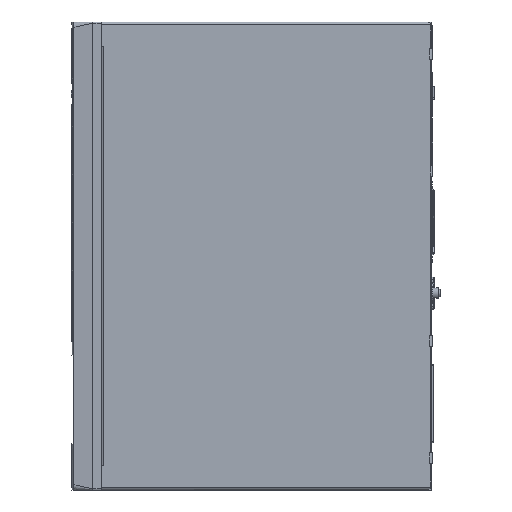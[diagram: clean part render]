
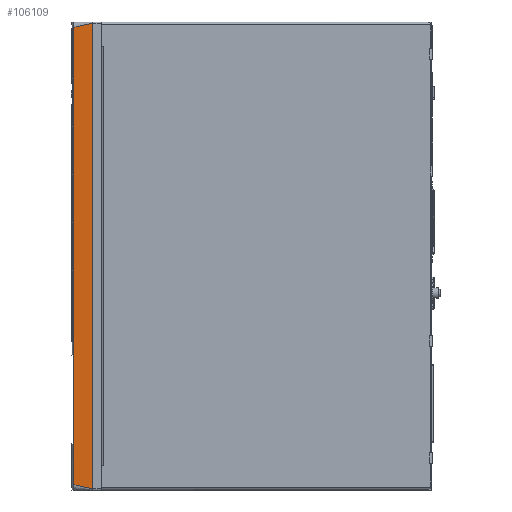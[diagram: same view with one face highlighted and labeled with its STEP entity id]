
A CAD part, front view. The second image highlights one B-rep face of the part: STEP entity #106109.
In plain terms, the highlighted planar face has unit normal (-0.087, -0.996, 0).
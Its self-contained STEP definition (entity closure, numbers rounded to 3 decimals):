
#5219 = CARTESIAN_POINT ( 'NONE',  ( -174.832, -85.965, 216.333 ) ) ;
#11551 = VECTOR ( 'NONE', #72221, 1000. ) ;
#14919 = ORIENTED_EDGE ( 'NONE', *, *, #92174, .F. ) ;
#24206 = VERTEX_POINT ( 'NONE', #119615 ) ;
#38385 = VERTEX_POINT ( 'NONE', #100819 ) ;
#53503 = CARTESIAN_POINT ( 'NONE',  ( -168.916, -86.482, -217.667 ) ) ;
#69353 = LINE ( 'NONE', #173345, #237282 ) ;
#72221 = DIRECTION ( 'NONE',  ( 0., 0., -1. ) ) ;
#75213 = EDGE_LOOP ( 'NONE', ( #172361, #253439, #128849, #14919 ) ) ;
#77200 = CARTESIAN_POINT ( 'NONE',  ( -180.748, -85.447, 215. ) ) ;
#85098 = B_SPLINE_CURVE_WITH_KNOTS ( 'NONE', 3,
 ( #210541, #230581, #5219, #250638 ),
 .UNSPECIFIED., .F., .F.,
 ( 4, 4 ),
 ( 0., 1. ),
 .UNSPECIFIED. ) ;
#92174 = EDGE_CURVE ( 'NONE', #24206, #138440, #173557, .T. ) ;
#94917 = CARTESIAN_POINT ( 'NONE',  ( -163., -87., -219. ) ) ;
#100819 = CARTESIAN_POINT ( 'NONE',  ( -180.748, -85.447, -215. ) ) ;
#106109 = ADVANCED_FACE ( 'NONE', ( #152281 ), #210953, .F. ) ;
#119615 = CARTESIAN_POINT ( 'NONE',  ( -163., -87., 219. ) ) ;
#128849 = ORIENTED_EDGE ( 'NONE', *, *, #261899, .T. ) ;
#133596 = DIRECTION ( 'NONE',  ( 0.087, 0.996, 0. ) ) ;
#138440 = VERTEX_POINT ( 'NONE', #178891 ) ;
#152281 = FACE_OUTER_BOUND ( 'NONE', #75213, .T. ) ;
#157498 = VERTEX_POINT ( 'NONE', #77200 ) ;
#172361 = ORIENTED_EDGE ( 'NONE', *, *, #217924, .T. ) ;
#173345 = CARTESIAN_POINT ( 'NONE',  ( -180.748, -85.447, 215. ) ) ;
#173557 = LINE ( 'NONE', #254996, #11551 ) ;
#178824 = CARTESIAN_POINT ( 'NONE',  ( -174.832, -85.965, -216.333 ) ) ;
#178891 = CARTESIAN_POINT ( 'NONE',  ( -163., -87., -219. ) ) ;
#210541 = CARTESIAN_POINT ( 'NONE',  ( -163., -87., 219. ) ) ;
#210953 = PLANE ( 'NONE',  #263746 ) ;
#214695 = DIRECTION ( 'NONE',  ( 0., 0., -1. ) ) ;
#214893 = DIRECTION ( 'NONE',  ( 0., 0., -1. ) ) ;
#217924 = EDGE_CURVE ( 'NONE', #24206, #157498, #85098, .T. ) ;
#221796 = EDGE_CURVE ( 'NONE', #157498, #38385, #69353, .T. ) ;
#230581 = CARTESIAN_POINT ( 'NONE',  ( -168.916, -86.482, 217.667 ) ) ;
#236286 = CARTESIAN_POINT ( 'NONE',  ( -180.748, -85.447, -215. ) ) ;
#237282 = VECTOR ( 'NONE', #214695, 1000. ) ;
#250638 = CARTESIAN_POINT ( 'NONE',  ( -180.748, -85.447, 215. ) ) ;
#253439 = ORIENTED_EDGE ( 'NONE', *, *, #221796, .T. ) ;
#254985 = CARTESIAN_POINT ( 'NONE',  ( -163., -87., -225.401 ) ) ;
#254996 = CARTESIAN_POINT ( 'NONE',  ( -163., -87., 219. ) ) ;
#260865 = B_SPLINE_CURVE_WITH_KNOTS ( 'NONE', 3,
 ( #236286, #178824, #53503, #94917 ),
 .UNSPECIFIED., .F., .F.,
 ( 4, 4 ),
 ( 0., 1. ),
 .UNSPECIFIED. ) ;
#261899 = EDGE_CURVE ( 'NONE', #38385, #138440, #260865, .T. ) ;
#263746 = AXIS2_PLACEMENT_3D ( 'NONE', #254985, #133596, #214893 ) ;
